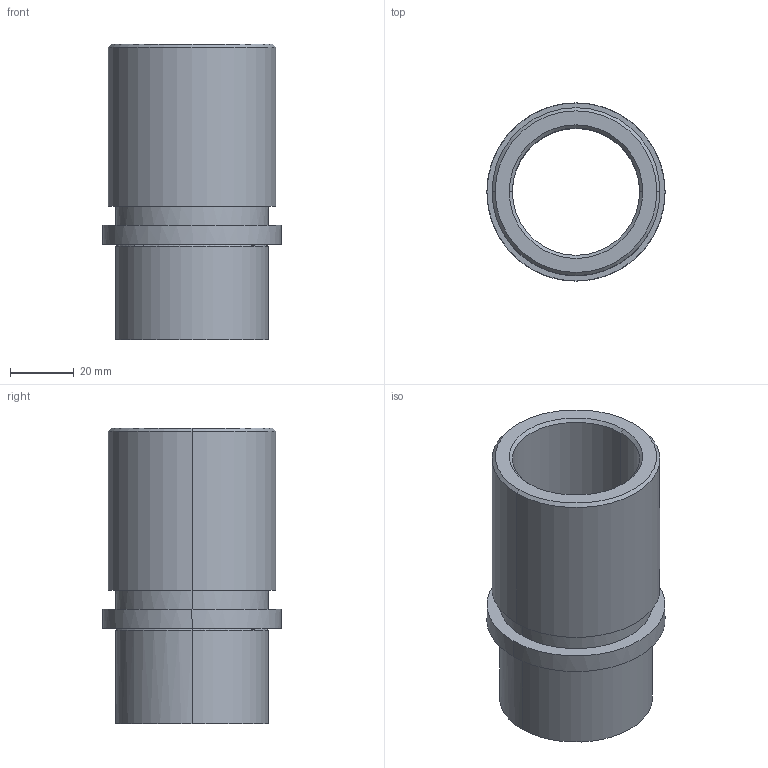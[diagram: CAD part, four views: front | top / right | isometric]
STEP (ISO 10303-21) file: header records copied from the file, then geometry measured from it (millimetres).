
FILE_DESCRIPTION(('CATIA V5 STEP Exchange'),'2;1');
FILE_NAME('C:\Users\Utente\Desktop\IO LAVORO\3D X SITO CF\X SITO\733\733-32.stp','2021-01-11T17:35:52+00:00',('none'),('none'),'CATIA Version 5 Release 20 GA (IN-10)','CATIA V5 STEP AP203','none');
FILE_SCHEMA(('CONFIG_CONTROL_DESIGN'));
Length unit declared in the file: millimetre
Products named in the file (1): 733-32
Assembly tree (1 placements, depth 2):
  733-32
    #58
Bounding box: 56 x 56 x 93 mm (x, y, z)
Volume: 74385.5 mm3; surface area: 29802.3 mm2
Topology: 1 solids, 1 shells, 25 faces, 50 edges, 30 vertices
Faces by surface type: cylinder 10, cone 6, plane 5, torus 4
Entity records: 851 total; most frequent: CARTESIAN_POINT 282, ORIENTED_EDGE 100, DIRECTION 96, AXIS2_PLACEMENT_3D 53, EDGE_CURVE 50, EDGE_LOOP 30, VERTEX_POINT 30, CIRCLE 26
